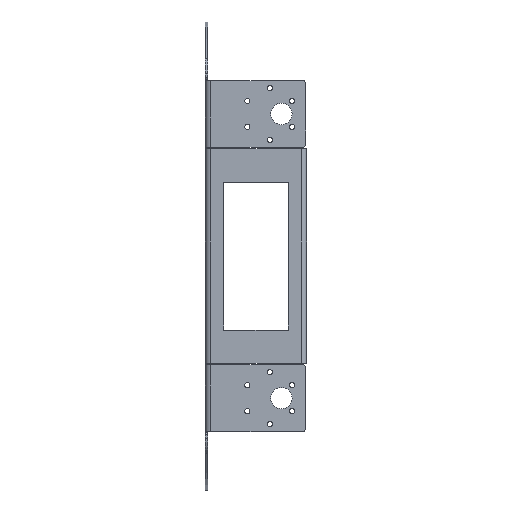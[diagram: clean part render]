
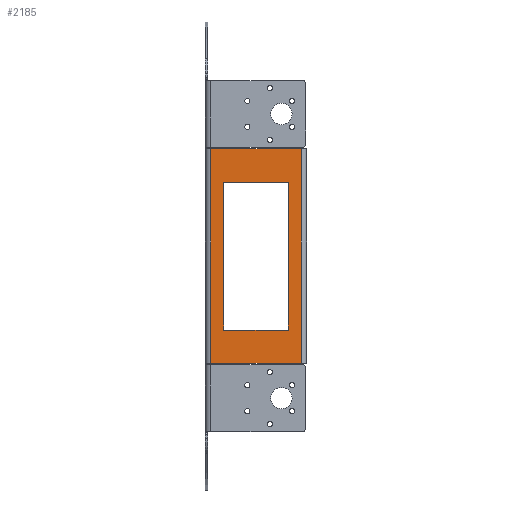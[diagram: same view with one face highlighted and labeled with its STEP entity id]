
A CAD part, left-side view. The second image highlights one B-rep face of the part: STEP entity #2185.
In plain terms, the highlighted planar face has unit normal (-1, 0, 0).
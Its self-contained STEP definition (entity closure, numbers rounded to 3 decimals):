
#57 = VECTOR ( 'NONE', #1615, 1000. ) ;
#140 = CARTESIAN_POINT ( 'NONE',  ( -95., -11., 44.25 ) ) ;
#188 = EDGE_CURVE ( 'NONE', #2907, #2961, #6025, .T. ) ;
#319 = CARTESIAN_POINT ( 'NONE',  ( -95., 0., 0. ) ) ;
#379 = LINE ( 'NONE', #2810, #2124 ) ;
#535 = CARTESIAN_POINT ( 'NONE',  ( -95., -57.35, -64.25 ) ) ;
#603 = LINE ( 'NONE', #7671, #5965 ) ;
#688 = ORIENTED_EDGE ( 'NONE', *, *, #4317, .T. ) ;
#759 = VERTEX_POINT ( 'NONE', #3747 ) ;
#796 = CARTESIAN_POINT ( 'NONE',  ( -95., -49.5, -44.25 ) ) ;
#1202 = VECTOR ( 'NONE', #7443, 1000. ) ;
#1243 = VECTOR ( 'NONE', #6723, 1000. ) ;
#1333 = DIRECTION ( 'NONE',  ( 0., 0., 1. ) ) ;
#1390 = ORIENTED_EDGE ( 'NONE', *, *, #3305, .T. ) ;
#1615 = DIRECTION ( 'NONE',  ( 0., -1., 0. ) ) ;
#1622 = LINE ( 'NONE', #4833, #5257 ) ;
#1668 = EDGE_CURVE ( 'NONE', #6258, #4631, #379, .T. ) ;
#1912 = DIRECTION ( 'NONE',  ( 0., 0., -1. ) ) ;
#1984 = ORIENTED_EDGE ( 'NONE', *, *, #1668, .T. ) ;
#2004 = FACE_BOUND ( 'NONE', #5670, .T. ) ;
#2124 = VECTOR ( 'NONE', #4741, 1000. ) ;
#2185 = ADVANCED_FACE ( 'NONE', ( #2004, #7732 ), #3618, .F. ) ;
#2242 = DIRECTION ( 'NONE',  ( 0., 1., 0. ) ) ;
#2464 = LINE ( 'NONE', #7673, #1202 ) ;
#2558 = ORIENTED_EDGE ( 'NONE', *, *, #2692, .T. ) ;
#2639 = EDGE_CURVE ( 'NONE', #759, #6258, #603, .T. ) ;
#2692 = EDGE_CURVE ( 'NONE', #4631, #5968, #6989, .T. ) ;
#2810 = CARTESIAN_POINT ( 'NONE',  ( -95., -11., -44.25 ) ) ;
#2902 = EDGE_CURVE ( 'NONE', #2907, #5695, #1622, .T. ) ;
#2907 = VERTEX_POINT ( 'NONE', #3021 ) ;
#2961 = VERTEX_POINT ( 'NONE', #4747 ) ;
#3021 = CARTESIAN_POINT ( 'NONE',  ( -95., -3.15, -64.25 ) ) ;
#3137 = VECTOR ( 'NONE', #1333, 1000. ) ;
#3305 = EDGE_CURVE ( 'NONE', #5968, #759, #2464, .T. ) ;
#3618 = PLANE ( 'NONE',  #7028 ) ;
#3637 = LINE ( 'NONE', #535, #1243 ) ;
#3747 = CARTESIAN_POINT ( 'NONE',  ( -95., -49.5, 44.25 ) ) ;
#3867 = LINE ( 'NONE', #5091, #4379 ) ;
#4121 = CARTESIAN_POINT ( 'NONE',  ( -95., -57.35, 64.25 ) ) ;
#4125 = CARTESIAN_POINT ( 'NONE',  ( -95., 0., -64.25 ) ) ;
#4299 = DIRECTION ( 'NONE',  ( 0., 0., 1. ) ) ;
#4317 = EDGE_CURVE ( 'NONE', #8052, #5695, #3867, .T. ) ;
#4379 = VECTOR ( 'NONE', #4435, 1000. ) ;
#4435 = DIRECTION ( 'NONE',  ( 0., 1., 0. ) ) ;
#4631 = VERTEX_POINT ( 'NONE', #8095 ) ;
#4716 = DIRECTION ( 'NONE',  ( 1., 0., 0. ) ) ;
#4741 = DIRECTION ( 'NONE',  ( 0., 1., 0. ) ) ;
#4747 = CARTESIAN_POINT ( 'NONE',  ( -95., -57.35, -64.25 ) ) ;
#4817 = ORIENTED_EDGE ( 'NONE', *, *, #188, .T. ) ;
#4833 = CARTESIAN_POINT ( 'NONE',  ( -95., -3.15, 64.25 ) ) ;
#5022 = CARTESIAN_POINT ( 'NONE',  ( -95., -3.15, 64.25 ) ) ;
#5091 = CARTESIAN_POINT ( 'NONE',  ( -95., 0., 64.25 ) ) ;
#5156 = EDGE_LOOP ( 'NONE', ( #7207, #688, #5773, #4817 ) ) ;
#5253 = EDGE_CURVE ( 'NONE', #2961, #8052, #3637, .T. ) ;
#5257 = VECTOR ( 'NONE', #4299, 1000. ) ;
#5670 = EDGE_LOOP ( 'NONE', ( #2558, #1390, #6678, #1984 ) ) ;
#5695 = VERTEX_POINT ( 'NONE', #5022 ) ;
#5773 = ORIENTED_EDGE ( 'NONE', *, *, #2902, .F. ) ;
#5965 = VECTOR ( 'NONE', #1912, 1000. ) ;
#5968 = VERTEX_POINT ( 'NONE', #6712 ) ;
#6025 = LINE ( 'NONE', #4125, #57 ) ;
#6258 = VERTEX_POINT ( 'NONE', #796 ) ;
#6678 = ORIENTED_EDGE ( 'NONE', *, *, #2639, .T. ) ;
#6712 = CARTESIAN_POINT ( 'NONE',  ( -95., -11., 44.25 ) ) ;
#6723 = DIRECTION ( 'NONE',  ( 0., 0., 1. ) ) ;
#6989 = LINE ( 'NONE', #140, #3137 ) ;
#7028 = AXIS2_PLACEMENT_3D ( 'NONE', #319, #4716, #2242 ) ;
#7207 = ORIENTED_EDGE ( 'NONE', *, *, #5253, .T. ) ;
#7443 = DIRECTION ( 'NONE',  ( 0., -1., 0. ) ) ;
#7671 = CARTESIAN_POINT ( 'NONE',  ( -95., -49.5, 44.25 ) ) ;
#7673 = CARTESIAN_POINT ( 'NONE',  ( -95., -11., 44.25 ) ) ;
#7732 = FACE_OUTER_BOUND ( 'NONE', #5156, .T. ) ;
#8052 = VERTEX_POINT ( 'NONE', #4121 ) ;
#8095 = CARTESIAN_POINT ( 'NONE',  ( -95., -11., -44.25 ) ) ;
